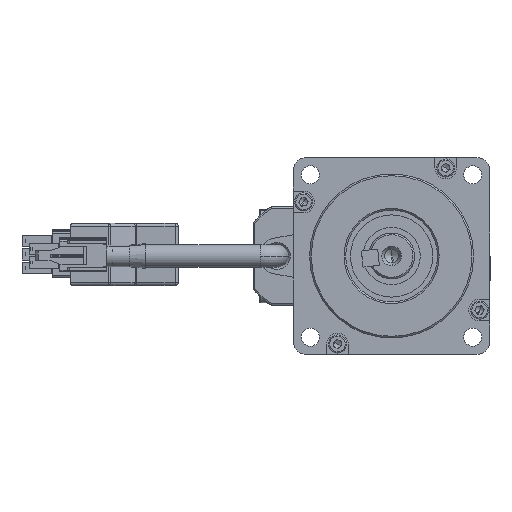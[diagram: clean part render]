
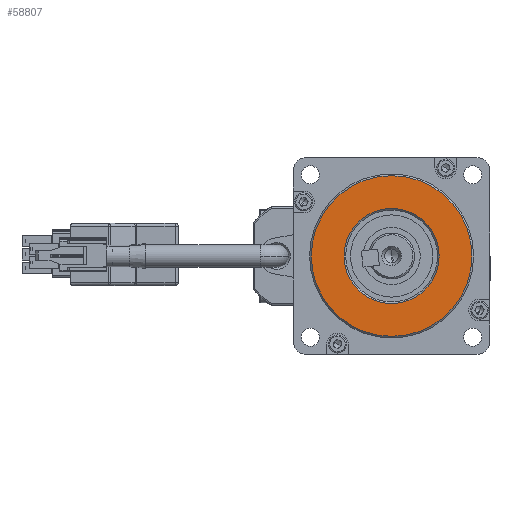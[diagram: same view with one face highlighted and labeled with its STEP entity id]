
A CAD part, left-side view. The second image highlights one B-rep face of the part: STEP entity #58807.
In plain terms, the highlighted planar face has unit normal (-1, 0, 0).
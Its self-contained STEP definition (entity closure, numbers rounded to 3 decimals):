
#4628 = DIRECTION ( 'NONE',  ( -1., 0., 0. ) ) ;
#4644 = CARTESIAN_POINT ( 'NONE',  ( -5.4, 0., 14.5 ) ) ;
#4915 = EDGE_CURVE ( 'NONE', #30842, #5457, #54721, .T. ) ;
#5457 = VERTEX_POINT ( 'NONE', #45490 ) ;
#6081 = DIRECTION ( 'NONE',  ( 1., 0., 0. ) ) ;
#10845 = PLANE ( 'NONE',  #53292 ) ;
#11347 = AXIS2_PLACEMENT_3D ( 'NONE', #24211, #60490, #29413 ) ;
#15765 = CIRCLE ( 'NONE', #43181, 24.5 ) ;
#19282 = VERTEX_POINT ( 'NONE', #66287 ) ;
#20824 = ORIENTED_EDGE ( 'NONE', *, *, #49556, .T. ) ;
#23124 = DIRECTION ( 'NONE',  ( 1., 0., 0. ) ) ;
#23851 = EDGE_CURVE ( 'NONE', #5457, #30842, #15765, .T. ) ;
#24211 = CARTESIAN_POINT ( 'NONE',  ( -5.4, 0., 0. ) ) ;
#25774 = AXIS2_PLACEMENT_3D ( 'NONE', #37101, #6081, #42305 ) ;
#25883 = AXIS2_PLACEMENT_3D ( 'NONE', #54166, #23124, #59396 ) ;
#26449 = DIRECTION ( 'NONE',  ( 0., 0., -1. ) ) ;
#29413 = DIRECTION ( 'NONE',  ( 0., 0., -1. ) ) ;
#30842 = VERTEX_POINT ( 'NONE', #61709 ) ;
#35638 = CARTESIAN_POINT ( 'NONE',  ( -5.4, 0., 0. ) ) ;
#36699 = CARTESIAN_POINT ( 'NONE',  ( -5.4, 0., 0. ) ) ;
#36771 = EDGE_LOOP ( 'NONE', ( #65374, #66257 ) ) ;
#37101 = CARTESIAN_POINT ( 'NONE',  ( -5.4, 0., 0. ) ) ;
#39422 = EDGE_CURVE ( 'NONE', #19282, #45247, #41621, .T. ) ;
#40859 = DIRECTION ( 'NONE',  ( 0., 0., -1. ) ) ;
#41621 = CIRCLE ( 'NONE', #25774, 14.5 ) ;
#42305 = DIRECTION ( 'NONE',  ( 0., 0., -1. ) ) ;
#43181 = AXIS2_PLACEMENT_3D ( 'NONE', #35638, #4628, #40859 ) ;
#44541 = FACE_BOUND ( 'NONE', #49982, .T. ) ;
#45247 = VERTEX_POINT ( 'NONE', #4644 ) ;
#45490 = CARTESIAN_POINT ( 'NONE',  ( -5.4, 0., 24.5 ) ) ;
#49556 = EDGE_CURVE ( 'NONE', #45247, #19282, #53811, .T. ) ;
#49982 = EDGE_LOOP ( 'NONE', ( #20824, #61025 ) ) ;
#53292 = AXIS2_PLACEMENT_3D ( 'NONE', #36699, #57513, #26449 ) ;
#53811 = CIRCLE ( 'NONE', #25883, 14.5 ) ;
#54166 = CARTESIAN_POINT ( 'NONE',  ( -5.4, 0., 0. ) ) ;
#54721 = CIRCLE ( 'NONE', #11347, 24.5 ) ;
#57513 = DIRECTION ( 'NONE',  ( 1., 0., 0. ) ) ;
#58807 = ADVANCED_FACE ( 'NONE', ( #44541, #61568 ), #10845, .F. ) ;
#59396 = DIRECTION ( 'NONE',  ( 0., 0., -1. ) ) ;
#60490 = DIRECTION ( 'NONE',  ( -1., 0., 0. ) ) ;
#61025 = ORIENTED_EDGE ( 'NONE', *, *, #39422, .T. ) ;
#61568 = FACE_OUTER_BOUND ( 'NONE', #36771, .T. ) ;
#61709 = CARTESIAN_POINT ( 'NONE',  ( -5.4, 0., -24.5 ) ) ;
#65374 = ORIENTED_EDGE ( 'NONE', *, *, #4915, .T. ) ;
#66257 = ORIENTED_EDGE ( 'NONE', *, *, #23851, .T. ) ;
#66287 = CARTESIAN_POINT ( 'NONE',  ( -5.4, 0., -14.5 ) ) ;
